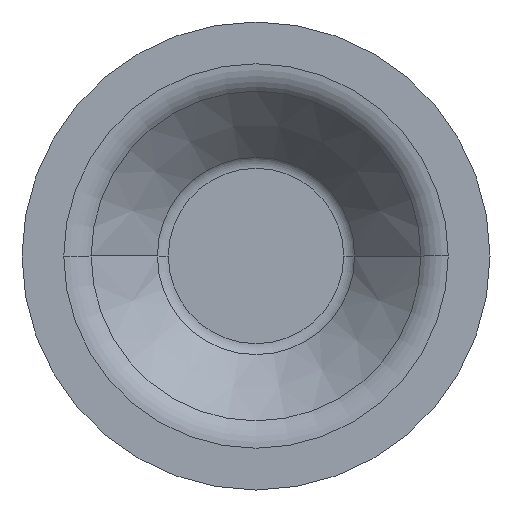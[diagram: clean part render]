
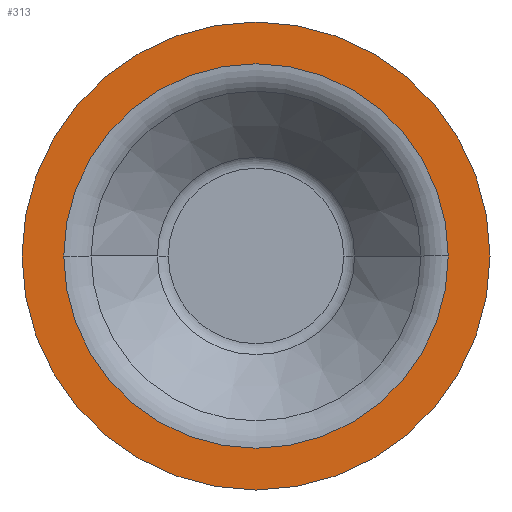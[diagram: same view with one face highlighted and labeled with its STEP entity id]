
A CAD part, front view. The second image highlights one B-rep face of the part: STEP entity #313.
In plain terms, the highlighted planar face has unit normal (0, -1, 0).
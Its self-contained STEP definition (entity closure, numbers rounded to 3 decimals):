
#78 = CARTESIAN_POINT ( 'NONE',  ( 0., -15., 0. ) ) ;
#86 = DIRECTION ( 'NONE',  ( 1., 0., 0. ) ) ;
#109 = DIRECTION ( 'NONE',  ( -1., 0., 0. ) ) ;
#191 = EDGE_CURVE ( 'NONE', #804, #521, #808, .T. ) ;
#221 = EDGE_CURVE ( 'NONE', #521, #804, #990, .T. ) ;
#254 = AXIS2_PLACEMENT_3D ( 'NONE', #591, #1096, #1602 ) ;
#289 = CARTESIAN_POINT ( 'NONE',  ( -25.88, -15., 0. ) ) ;
#312 = EDGE_CURVE ( 'NONE', #647, #1507, #653, .T. ) ;
#313 = ADVANCED_FACE ( 'NONE', ( #1466, #841 ), #1343, .T. ) ;
#318 = CARTESIAN_POINT ( 'NONE',  ( 31.5, -15., 0. ) ) ;
#488 = DIRECTION ( 'NONE',  ( 0., -1., 0. ) ) ;
#521 = VERTEX_POINT ( 'NONE', #289 ) ;
#568 = ORIENTED_EDGE ( 'NONE', *, *, #998, .T. ) ;
#591 = CARTESIAN_POINT ( 'NONE',  ( 31.5, -15., 0. ) ) ;
#614 = DIRECTION ( 'NONE',  ( 0., -1., 0. ) ) ;
#647 = VERTEX_POINT ( 'NONE', #318 ) ;
#653 = CIRCLE ( 'NONE', #966, 31.5 ) ;
#670 = ORIENTED_EDGE ( 'NONE', *, *, #221, .F. ) ;
#709 = CIRCLE ( 'NONE', #1314, 31.5 ) ;
#738 = CARTESIAN_POINT ( 'NONE',  ( 0., -15., 0. ) ) ;
#740 = EDGE_LOOP ( 'NONE', ( #670, #1515 ) ) ;
#760 = EDGE_LOOP ( 'NONE', ( #1559, #568 ) ) ;
#804 = VERTEX_POINT ( 'NONE', #1632 ) ;
#808 = CIRCLE ( 'NONE', #1522, 25.88 ) ;
#841 = FACE_OUTER_BOUND ( 'NONE', #760, .T. ) ;
#963 = CARTESIAN_POINT ( 'NONE',  ( 0., -15., 0. ) ) ;
#966 = AXIS2_PLACEMENT_3D ( 'NONE', #738, #614, #86 ) ;
#990 = CIRCLE ( 'NONE', #1048, 25.88 ) ;
#998 = EDGE_CURVE ( 'NONE', #1507, #647, #709, .T. ) ;
#1048 = AXIS2_PLACEMENT_3D ( 'NONE', #963, #1222, #1369 ) ;
#1093 = CARTESIAN_POINT ( 'NONE',  ( -31.5, -15., 0. ) ) ;
#1096 = DIRECTION ( 'NONE',  ( 0., -1., 0. ) ) ;
#1172 = DIRECTION ( 'NONE',  ( 0., -1., 0. ) ) ;
#1222 = DIRECTION ( 'NONE',  ( 0., -1., 0. ) ) ;
#1314 = AXIS2_PLACEMENT_3D ( 'NONE', #1524, #1172, #1542 ) ;
#1343 = PLANE ( 'NONE',  #254 ) ;
#1369 = DIRECTION ( 'NONE',  ( -1., 0., 0. ) ) ;
#1466 = FACE_BOUND ( 'NONE', #740, .T. ) ;
#1507 = VERTEX_POINT ( 'NONE', #1093 ) ;
#1515 = ORIENTED_EDGE ( 'NONE', *, *, #191, .F. ) ;
#1522 = AXIS2_PLACEMENT_3D ( 'NONE', #78, #488, #109 ) ;
#1524 = CARTESIAN_POINT ( 'NONE',  ( 0., -15., 0. ) ) ;
#1542 = DIRECTION ( 'NONE',  ( 1., 0., 0. ) ) ;
#1559 = ORIENTED_EDGE ( 'NONE', *, *, #312, .T. ) ;
#1602 = DIRECTION ( 'NONE',  ( 1., 0., 0. ) ) ;
#1632 = CARTESIAN_POINT ( 'NONE',  ( 25.88, -15., 0. ) ) ;
